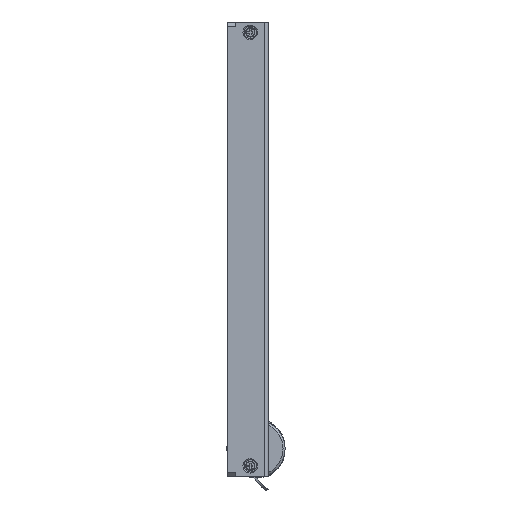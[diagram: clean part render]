
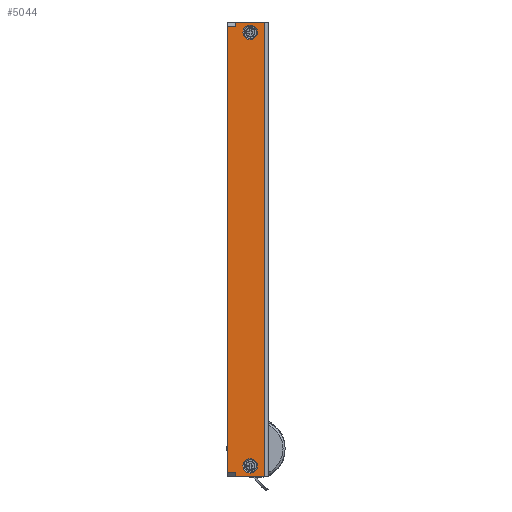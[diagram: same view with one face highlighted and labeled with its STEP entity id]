
A CAD part, left-side view. The second image highlights one B-rep face of the part: STEP entity #5044.
In plain terms, the highlighted planar face has unit normal (-1, 0, 0).
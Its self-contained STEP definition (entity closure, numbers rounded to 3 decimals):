
#4913 = VERTEX_POINT ( 'NONE', #19961 ) ;
#4914 = VERTEX_POINT ( 'NONE', #19968 ) ;
#4956 = VERTEX_POINT ( 'NONE', #20016 ) ;
#4967 = EDGE_CURVE ( 'NONE', #4913, #4994, #20062, .T. ) ;
#4985 = EDGE_CURVE ( 'NONE', #4914, #4913, #20099, .T. ) ;
#4994 = VERTEX_POINT ( 'NONE', #20096 ) ;
#4998 = EDGE_CURVE ( 'NONE', #5042, #5043, #20133, .T. ) ;
#5001 = ORIENTED_EDGE ( 'NONE', *, *, #4985, .T. ) ;
#5004 = VERTEX_POINT ( 'NONE', #20116 ) ;
#5012 = EDGE_CURVE ( 'NONE', #4956, #5004, #20110, .T. ) ;
#5024 = VERTEX_POINT ( 'NONE', #20147 ) ;
#5034 = ORIENTED_EDGE ( 'NONE', *, *, #5109, .F. ) ;
#5035 = ORIENTED_EDGE ( 'NONE', *, *, #6544, .F. ) ;
#5037 = ORIENTED_EDGE ( 'NONE', *, *, #6558, .F. ) ;
#5038 = EDGE_CURVE ( 'NONE', #6611, #6616, #20197, .T. ) ;
#5039 = ORIENTED_EDGE ( 'NONE', *, *, #5038, .F. ) ;
#5042 = VERTEX_POINT ( 'NONE', #20188 ) ;
#5043 = VERTEX_POINT ( 'NONE', #20191 ) ;
#5044 = ADVANCED_FACE ( 'NONE', ( #20175, #20176, #20182 ), #20174, .F. ) ;
#5045 = ORIENTED_EDGE ( 'NONE', *, *, #4998, .F. ) ;
#5046 = EDGE_CURVE ( 'NONE', #5042, #4914, #20181, .T. ) ;
#5047 = EDGE_CURVE ( 'NONE', #5004, #5043, #20230, .T. ) ;
#5048 = ORIENTED_EDGE ( 'NONE', *, *, #5046, .T. ) ;
#5050 = ORIENTED_EDGE ( 'NONE', *, *, #4967, .T. ) ;
#5051 = EDGE_CURVE ( 'NONE', #5024, #4994, #20220, .T. ) ;
#5052 = ORIENTED_EDGE ( 'NONE', *, *, #5047, .T. ) ;
#5053 = EDGE_LOOP ( 'NONE', ( #5034, #5037 ) ) ;
#5055 = EDGE_LOOP ( 'NONE', ( #5045, #5048, #5001, #5050, #5062, #5063, #5110, #5052 ) ) ;
#5061 = EDGE_CURVE ( 'NONE', #4956, #5024, #20204, .T. ) ;
#5062 = ORIENTED_EDGE ( 'NONE', *, *, #5051, .F. ) ;
#5063 = ORIENTED_EDGE ( 'NONE', *, *, #5061, .F. ) ;
#5109 = EDGE_CURVE ( 'NONE', #6554, #6612, #20322, .T. ) ;
#5110 = ORIENTED_EDGE ( 'NONE', *, *, #5012, .T. ) ;
#5111 = EDGE_LOOP ( 'NONE', ( #5039, #5035 ) ) ;
#6544 = EDGE_CURVE ( 'NONE', #6616, #6611, #24197, .T. ) ;
#6554 = VERTEX_POINT ( 'NONE', #24227 ) ;
#6558 = EDGE_CURVE ( 'NONE', #6612, #6554, #24219, .T. ) ;
#6611 = VERTEX_POINT ( 'NONE', #24299 ) ;
#6612 = VERTEX_POINT ( 'NONE', #24302 ) ;
#6616 = VERTEX_POINT ( 'NONE', #24352 ) ;
#19961 = CARTESIAN_POINT ( 'NONE',  ( 0., 8., -55. ) ) ;
#19968 = CARTESIAN_POINT ( 'NONE',  ( 0., 8., -54. ) ) ;
#20016 = CARTESIAN_POINT ( 'NONE',  ( 0., 8., 55. ) ) ;
#20059 = DIRECTION ( 'NONE',  ( 0., -1., 0. ) ) ;
#20060 = VECTOR ( 'NONE', #20059, 1000. ) ;
#20061 = CARTESIAN_POINT ( 'NONE',  ( 0., 8., -55. ) ) ;
#20062 = LINE ( 'NONE', #20061, #20060 ) ;
#20092 = DIRECTION ( 'NONE',  ( 0., 0., -1. ) ) ;
#20093 = VECTOR ( 'NONE', #20092, 1000. ) ;
#20094 = CARTESIAN_POINT ( 'NONE',  ( 0., 8., 55. ) ) ;
#20096 = CARTESIAN_POINT ( 'NONE',  ( 0., 1.1, -55. ) ) ;
#20099 = LINE ( 'NONE', #20094, #20093 ) ;
#20110 = LINE ( 'NONE', #20161, #20160 ) ;
#20116 = CARTESIAN_POINT ( 'NONE',  ( 0., 8., 54. ) ) ;
#20127 = DIRECTION ( 'NONE',  ( 0., 0., 1. ) ) ;
#20128 = VECTOR ( 'NONE', #20127, 1000. ) ;
#20129 = CARTESIAN_POINT ( 'NONE',  ( 0., 10., -55. ) ) ;
#20133 = LINE ( 'NONE', #20129, #20128 ) ;
#20147 = CARTESIAN_POINT ( 'NONE',  ( 0., 1.1, 55. ) ) ;
#20159 = DIRECTION ( 'NONE',  ( 0., 0., -1. ) ) ;
#20160 = VECTOR ( 'NONE', #20159, 1000. ) ;
#20161 = CARTESIAN_POINT ( 'NONE',  ( 0., 8., 55. ) ) ;
#20174 = PLANE ( 'NONE',  #20199 ) ;
#20175 = FACE_OUTER_BOUND ( 'NONE', #5055, .T. ) ;
#20176 = FACE_BOUND ( 'NONE', #5053, .T. ) ;
#20177 = DIRECTION ( 'NONE',  ( 0., 0., 1. ) ) ;
#20178 = DIRECTION ( 'NONE',  ( -1., 0., 0. ) ) ;
#20179 = CARTESIAN_POINT ( 'NONE',  ( 0., 4.5, 52.5 ) ) ;
#20181 = LINE ( 'NONE', #20233, #20232 ) ;
#20182 = FACE_BOUND ( 'NONE', #5111, .T. ) ;
#20187 = CARTESIAN_POINT ( 'NONE',  ( 0., 10., -55. ) ) ;
#20188 = CARTESIAN_POINT ( 'NONE',  ( 0., 10., -54. ) ) ;
#20191 = CARTESIAN_POINT ( 'NONE',  ( 0., 10., 54. ) ) ;
#20196 = AXIS2_PLACEMENT_3D ( 'NONE', #20179, #20178, #20177 ) ;
#20197 = CIRCLE ( 'NONE', #20196, 1.75 ) ;
#20198 = DIRECTION ( 'NONE',  ( 1., 0., 0. ) ) ;
#20199 = AXIS2_PLACEMENT_3D ( 'NONE', #20187, #20198, #20236 ) ;
#20201 = DIRECTION ( 'NONE',  ( 0., -1., 0. ) ) ;
#20202 = VECTOR ( 'NONE', #20201, 1000. ) ;
#20203 = CARTESIAN_POINT ( 'NONE',  ( 0., 8., 55. ) ) ;
#20204 = LINE ( 'NONE', #20203, #20202 ) ;
#20218 = DIRECTION ( 'NONE',  ( 0., 0., -1. ) ) ;
#20219 = VECTOR ( 'NONE', #20218, 1000. ) ;
#20220 = LINE ( 'NONE', #20235, #20219 ) ;
#20227 = DIRECTION ( 'NONE',  ( 0., 1., 0. ) ) ;
#20228 = VECTOR ( 'NONE', #20227, 1000. ) ;
#20229 = CARTESIAN_POINT ( 'NONE',  ( 0., 10., 54. ) ) ;
#20230 = LINE ( 'NONE', #20229, #20228 ) ;
#20231 = DIRECTION ( 'NONE',  ( 0., -1., 0. ) ) ;
#20232 = VECTOR ( 'NONE', #20231, 1000. ) ;
#20233 = CARTESIAN_POINT ( 'NONE',  ( 0., 10., -54. ) ) ;
#20235 = CARTESIAN_POINT ( 'NONE',  ( 0., 1.1, 55. ) ) ;
#20236 = DIRECTION ( 'NONE',  ( 0., 0., -1. ) ) ;
#20311 = DIRECTION ( 'NONE',  ( 0., 0., 1. ) ) ;
#20313 = DIRECTION ( 'NONE',  ( -1., 0., 0. ) ) ;
#20314 = CARTESIAN_POINT ( 'NONE',  ( 0., 4.5, -52.5 ) ) ;
#20315 = AXIS2_PLACEMENT_3D ( 'NONE', #20314, #20313, #20311 ) ;
#20322 = CIRCLE ( 'NONE', #20315, 1.75 ) ;
#24187 = DIRECTION ( 'NONE',  ( 0., 0., 1. ) ) ;
#24188 = DIRECTION ( 'NONE',  ( -1., 0., 0. ) ) ;
#24189 = CARTESIAN_POINT ( 'NONE',  ( 0., 4.5, 52.5 ) ) ;
#24190 = AXIS2_PLACEMENT_3D ( 'NONE', #24189, #24188, #24187 ) ;
#24197 = CIRCLE ( 'NONE', #24190, 1.75 ) ;
#24216 = DIRECTION ( 'NONE',  ( 0., 0., 1. ) ) ;
#24217 = DIRECTION ( 'NONE',  ( -1., 0., 0. ) ) ;
#24218 = AXIS2_PLACEMENT_3D ( 'NONE', #24226, #24217, #24216 ) ;
#24219 = CIRCLE ( 'NONE', #24218, 1.75 ) ;
#24226 = CARTESIAN_POINT ( 'NONE',  ( 0., 4.5, -52.5 ) ) ;
#24227 = CARTESIAN_POINT ( 'NONE',  ( 0., 4.5, -50.75 ) ) ;
#24299 = CARTESIAN_POINT ( 'NONE',  ( 0., 4.5, 54.25 ) ) ;
#24302 = CARTESIAN_POINT ( 'NONE',  ( 0., 4.5, -54.25 ) ) ;
#24352 = CARTESIAN_POINT ( 'NONE',  ( 0., 4.5, 50.75 ) ) ;
